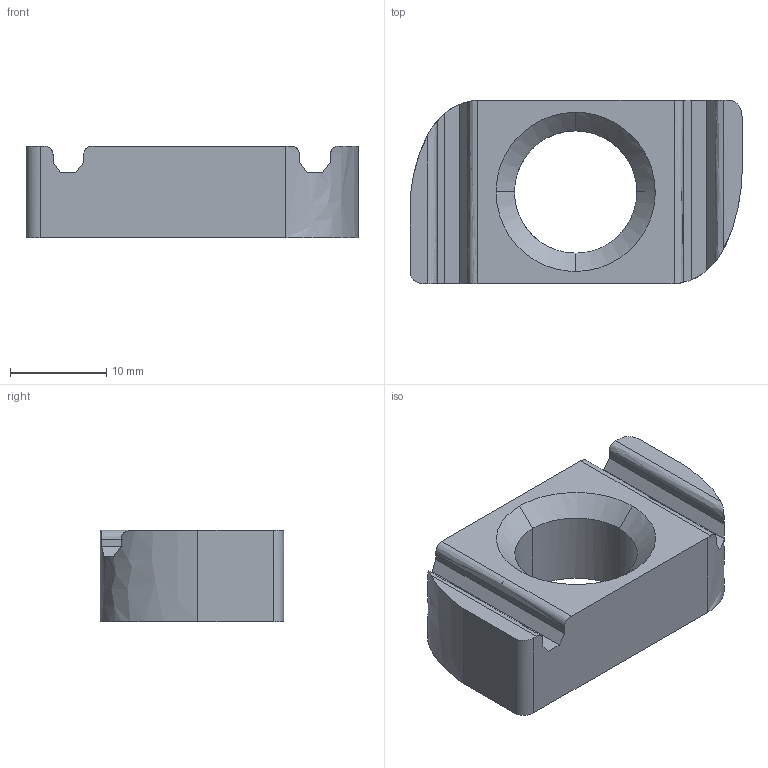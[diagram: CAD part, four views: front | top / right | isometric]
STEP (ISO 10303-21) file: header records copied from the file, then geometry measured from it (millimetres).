
FILE_DESCRIPTION(('TurboCAD Mac Pro'),'Build 980');
FILE_NAME('P3013.stp',' ',(''),(''),'ACIS Interop','IMSI','TurboCAD Mac Pro BY IMSI, INCORPORATED');
FILE_SCHEMA(('automotive_design'));
Length unit declared in the file: inch
Products named in the file (1): 1
Bounding box: 34.45 x 19.05 x 9.53 mm (x, y, z)
Volume: 4327.9 mm3; surface area: 2361.7 mm2
Topology: 1 solids, 1 shells, 34 faces, 92 edges, 60 vertices
Faces by surface type: plane 18, bspline 16
Entity records: 1738 total; most frequent: CARTESIAN_POINT 717, ORIENTED_EDGE 184, EDGE_CURVE 92, DIRECTION 86, VERTEX_POINT 60, LINE 48, VECTOR 48, B_SPLINE_CURVE_WITH_KNOTS 44
